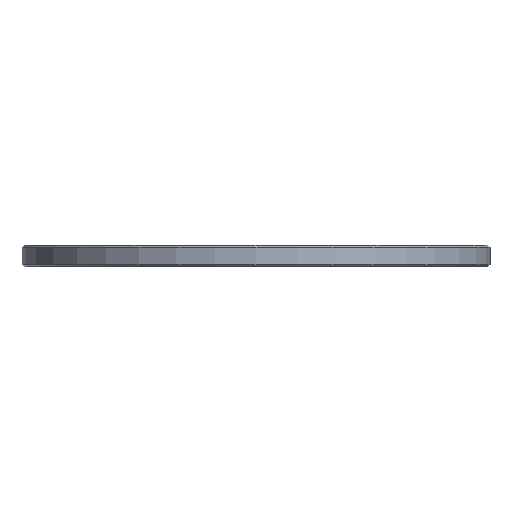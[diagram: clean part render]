
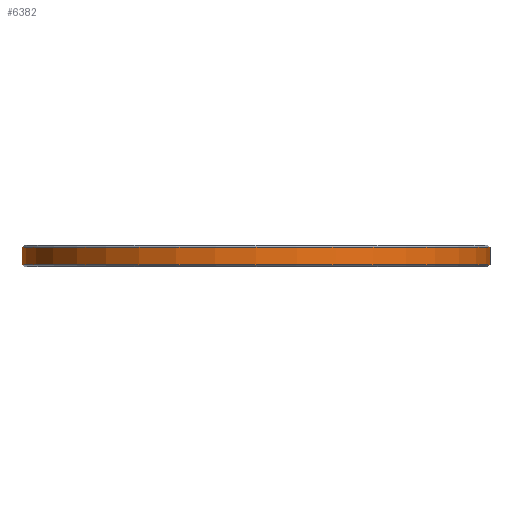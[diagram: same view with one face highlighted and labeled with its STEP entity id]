
A CAD part, front view. The second image highlights one B-rep face of the part: STEP entity #6382.
In plain terms, the highlighted cylindrical face has radius 34.375 mm (diameter 68.75 mm), a full revolution.
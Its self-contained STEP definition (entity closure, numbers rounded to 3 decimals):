
#71=CYLINDRICAL_SURFACE('',#6788,34.375);
#657=FACE_OUTER_BOUND('',#1028,.T.);
#1028=EDGE_LOOP('',(#5915,#5916,#5917,#5918));
#1118=CIRCLE('',#6787,34.375);
#1119=CIRCLE('',#6789,34.375);
#1923=LINE('',#10182,#2738);
#2738=VECTOR('',#8350,34.375);
#3324=VERTEX_POINT('',#10176);
#3325=VERTEX_POINT('',#10180);
#4190=EDGE_CURVE('',#3324,#3324,#1118,.T.);
#4192=EDGE_CURVE('',#3325,#3325,#1119,.T.);
#4193=EDGE_CURVE('',#3325,#3324,#1923,.T.);
#5915=ORIENTED_EDGE('',*,*,#4192,.F.);
#5916=ORIENTED_EDGE('',*,*,#4193,.T.);
#5917=ORIENTED_EDGE('',*,*,#4190,.F.);
#5918=ORIENTED_EDGE('',*,*,#4193,.F.);
#6382=ADVANCED_FACE('',(#657),#71,.T.);
#6787=AXIS2_PLACEMENT_3D('',#10177,#8343,#8344);
#6788=AXIS2_PLACEMENT_3D('',#10179,#8346,#8347);
#6789=AXIS2_PLACEMENT_3D('',#10181,#8348,#8349);
#8343=DIRECTION('center_axis',(0.,0.,-1.));
#8344=DIRECTION('ref_axis',(1.,0.,0.));
#8346=DIRECTION('center_axis',(0.,0.,1.));
#8347=DIRECTION('ref_axis',(1.,0.,0.));
#8348=DIRECTION('center_axis',(0.,0.,1.));
#8349=DIRECTION('ref_axis',(1.,0.,0.));
#8350=DIRECTION('',(0.,0.,-1.));
#10176=CARTESIAN_POINT('',(-34.375,0.,0.3));
#10177=CARTESIAN_POINT('Origin',(0.,0.,0.3));
#10179=CARTESIAN_POINT('Origin',(0.,0.,0.));
#10180=CARTESIAN_POINT('',(-34.375,0.,2.825));
#10181=CARTESIAN_POINT('Origin',(0.,0.,2.825));
#10182=CARTESIAN_POINT('',(-34.375,0.,0.));
